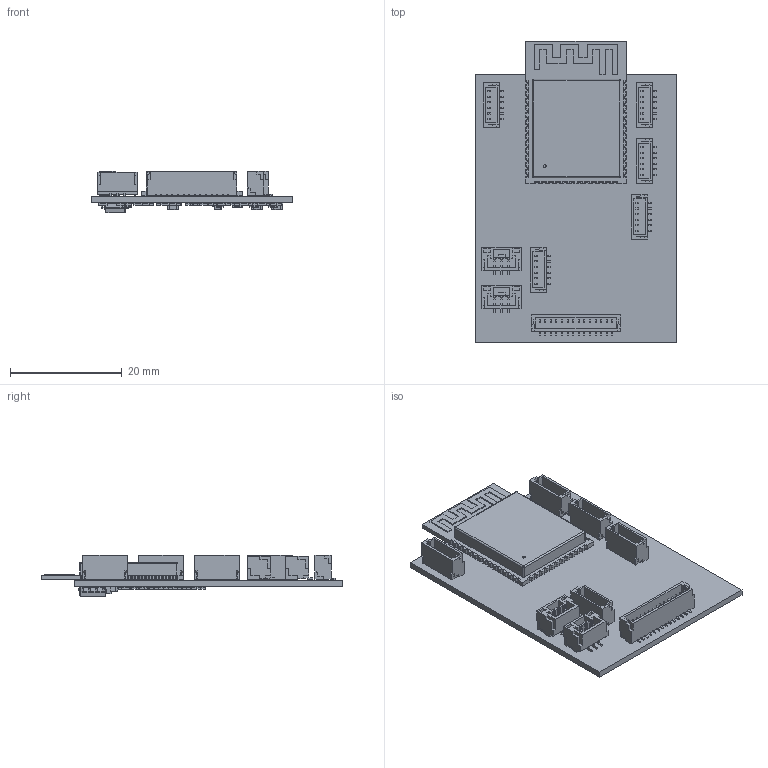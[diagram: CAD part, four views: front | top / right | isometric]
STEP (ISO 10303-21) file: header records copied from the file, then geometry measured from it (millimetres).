
FILE_DESCRIPTION(('KiCad electronic assembly'),'2;1');
FILE_NAME('PoseDoll_RevO3_proximal5.step','2026-09-24T02:53:06',( 'Pcbnew'),('Kicad'),'Open CASCADE STEP processor 7.9', 'KiCad to STEP converter','Unknown');
FILE_SCHEMA(('AUTOMOTIVE_DESIGN { 1 0 10303 214 1 1 1 1 }'));
Length unit declared in the file: millimetre
Products named in the file (20): PoseDoll_RevO3_proximal5 1; JST_SH_BM06B-SRSS-TB_1x06-1MP_P1.00mm_Vertical; JST_GH_BM03B-GHS-TBT_1x03-1MP_P1.25mm_Vertical; JST_BM03B_GHS_TBT; ESP32-S3-WROOM-1; JST_SH_BM14B-SRSS-TB_1x14-1MP_P1.00mm_Vertical; R_0603_1608Metric; C_0805_2012Metric; C_0603_1608Metric; SOT-23; SOIC-8_3.9x4.9mm_P1.27mm; PoseDoll_RevO3_proximal5_PCB
Assembly tree (91 placements, depth 3):
  PoseDoll_RevO3_proximal5 1
    JST_SH_BM06B-SRSS-TB_1x06-1MP_P1.00mm_Vertical  x5
      JST_SH_BM06B-SRSS-TB_1x06-1MP_P1.00mm_Vertical
    JST_GH_BM03B-GHS-TBT_1x03-1MP_P1.25mm_Vertical  x2
      JST_BM03B_GHS_TBT
    ESP32-S3-WROOM-1
      ESP32-S3-WROOM-1
    JST_SH_BM14B-SRSS-TB_1x14-1MP_P1.00mm_Vertical
      JST_SH_BM14B-SRSS-TB_1x14-1MP_P1.00mm_Vertical
    R_0603_1608Metric  x56
      R_0603_1608Metric
    C_0805_2012Metric  x3
      C_0805_2012Metric
    C_0603_1608Metric  x11
      C_0603_1608Metric
    SOT-23
      SOT-23
    SOIC-8_3.9x4.9mm_P1.27mm
      SOIC-8_3.9x4.9mm_P1.27mm
    PoseDoll_RevO3_proximal5_PCB
Bounding box: 36 x 53.95 x 7.35 mm (x, y, z)
Volume: 3549.2 mm3; surface area: 8054.2 mm2
Topology: 133 solids, 133 shells, 4471 faces, 11467 edges, 7362 vertices
Faces by surface type: plane 3674, cylinder 761, bspline 32, sphere 4
Full cylindrical faces by diameter (mm): 0.3 x12, 0.5 x1
Entity records: 76540 total; most frequent: CARTESIAN_POINT 10687, ORIENTED_EDGE 10283, DIRECTION 9720, EDGE_CURVE 5142, LINE 4738, VECTOR 4738, VERTEX_POINT 3234, AXIS2_PLACEMENT_3D 2491
